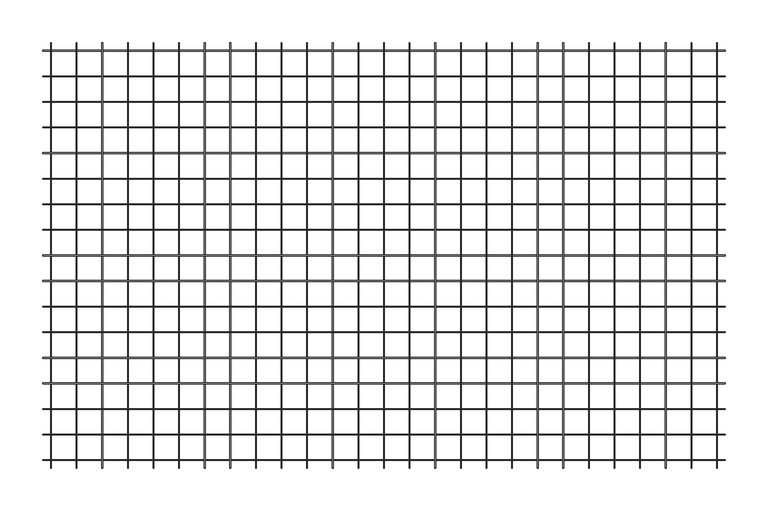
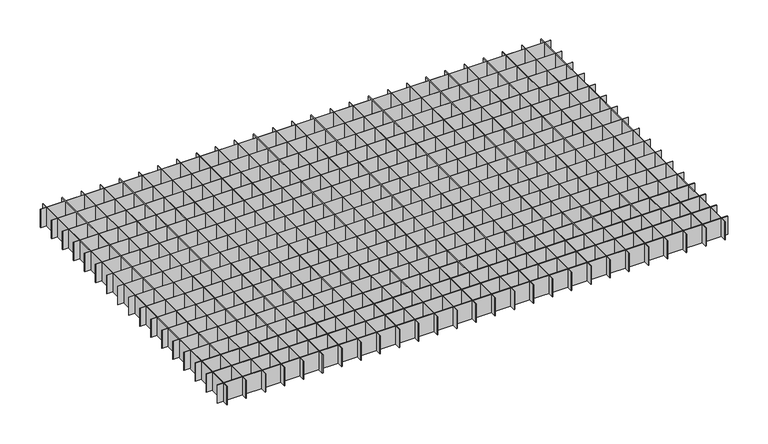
"""IFC4 building model written with IfcOpenShell, lengths in millimetres: proxy geometry, durlum_QUADRA_panel : durlum_QUADRA_corner_cut."""

import ifcopenshell
import ifcopenshell.guid

model = None  # the IFC model being written
_history = None  # IfcOwnerHistory: only IFC2X3 demands one
_inside = {}  # id of a spatial element -> (the spatial element, [elements in it])
_under = {}  # id of a project, library or spatial element -> (it, [spatial elements below it])
_declared = {}  # id of a project -> (the project, [libraries it declares])
_typed = {}  # id of a type object -> (the type object, [elements of that type])
_made_of = {}  # id of a material, layer set ... -> (it, [elements and type objects made of it])


def new_model(schema):
    """Start an empty IFC model of exactly this schema.

    Asked for "IFC4X3", IfcOpenShell would pick the latest addendum, in which some entities
    have other attributes; the version numbers below select the first issue.
    IFC2X3 requires an IfcOwnerHistory on every rooted entity: one is made here for all.
    """
    global model, _history
    if schema == "IFC4X3":
        model = ifcopenshell.file(schema_version=(4, 3, 0, 0))
    else:
        model = ifcopenshell.file(schema=schema)
    _inside.clear()
    _under.clear()
    _declared.clear()
    _typed.clear()
    _made_of.clear()
    _history = None
    if model.schema == "IFC2X3":
        org = make("IfcOrganization", Name="unknown")
        user = make(
            "IfcPersonAndOrganization",
            ThePerson=make("IfcPerson", FamilyName="unknown"),
            TheOrganization=org,
        )
        app = make(
            "IfcApplication",
            ApplicationDeveloper=org,
            Version="unknown",
            ApplicationFullName="unknown",
            ApplicationIdentifier="unknown",
        )
        _history = make(
            "IfcOwnerHistory",
            OwningUser=user,
            OwningApplication=app,
            ChangeAction="ADDED",
            CreationDate=0,
        )
    return model


def make(cls, **values):
    """One entity of the class cls with the attributes given. An attribute that is None is left unset."""
    return model.create_entity(
        cls, **{name: value for name, value in values.items() if value is not None}
    )


def rooted(cls, **values):
    """An entity with a GlobalId (a new one), such as an element, a storey or a relation."""
    return make(cls, GlobalId=ifcopenshell.guid.new(), OwnerHistory=_history, **values)


def si_unit(unit_type, name, prefix=None):
    """IfcSIUnit, for example si_unit("LENGTHUNIT", "METRE", prefix="MILLI")."""
    return make("IfcSIUnit", UnitType=unit_type, Prefix=prefix, Name=name)


def assignment(units):
    """IfcUnitAssignment: the units of a project."""
    return None if units is None else make("IfcUnitAssignment", Units=units)


def point(xyz):
    """IfcCartesianPoint."""
    return None if xyz is None else make("IfcCartesianPoint", Coordinates=xyz)


def direction(xyz):
    """IfcDirection."""
    return None if xyz is None else make("IfcDirection", DirectionRatios=xyz)


def frame(location, z_axis=None, x_axis=None):
    """IfcAxis2Placement3D, a coordinate frame: its origin and axes. An axis left out is left unset."""
    return make(
        "IfcAxis2Placement3D",
        Location=point(location),
        Axis=direction(z_axis),
        RefDirection=direction(x_axis),
    )


def origin():
    """The frame at (0, 0, 0) with its axes left unset."""
    return frame((0.0, 0.0, 0.0))


def origin_with_axes():
    """The frame at (0, 0, 0) with the z axis (0, 0, 1) and the x axis (1, 0, 0) written out."""
    return frame((0.0, 0.0, 0.0), z_axis=(0.0, 0.0, 1.0), x_axis=(1.0, 0.0, 0.0))


def place(relative_to, where):
    """IfcLocalPlacement: puts the frame where relative to a parent placement (None: the world)."""
    return make(
        "IfcLocalPlacement", PlacementRelTo=relative_to, RelativePlacement=where
    )


def context(
    kind, dimensions, precision=None, world=None, true_north=None, identifier=None
):
    """IfcGeometricRepresentationContext, for example the 3D "Model" context."""
    return make(
        "IfcGeometricRepresentationContext",
        ContextIdentifier=identifier,
        ContextType=kind,
        CoordinateSpaceDimension=dimensions,
        Precision=precision,
        WorldCoordinateSystem=world,
        TrueNorth=true_north,
    )


def project(units=None, contexts=None):
    """IfcProject with its units and contexts."""
    return rooted(
        "IfcProject",
        Name="project",
        RepresentationContexts=contexts,
        UnitsInContext=assignment(units),
    )


def spatial(cls, under=None, at=None, **own):
    """A site, building, storey or space (cls), placed at a placement, below another one or the project."""
    s = rooted(cls, ObjectPlacement=at, **own)
    if under is not None:
        _under.setdefault(under.id(), (under, []))[1].append(s)
    return s


def polyline(points):
    """IfcPolyline through the points."""
    return make("IfcPolyline", Points=[point(p) for p in points])


def outline(outer, holes=None, kind="AREA"):
    """IfcArbitraryClosedProfileDef: a profile drawn as a closed curve; with holes, ...WithVoids."""
    if holes is None:
        return make("IfcArbitraryClosedProfileDef", ProfileType=kind, OuterCurve=outer)
    return make(
        "IfcArbitraryProfileDefWithVoids",
        ProfileType=kind,
        OuterCurve=outer,
        InnerCurves=holes,
    )


def extrude(swept, where, along, depth):
    """IfcExtrudedAreaSolid: the profile swept, set in the frame where, extruded along a direction by depth."""
    return make(
        "IfcExtrudedAreaSolid",
        SweptArea=swept,
        Position=where,
        ExtrudedDirection=direction(along),
        Depth=depth,
    )


def shape(context_of_items, identifier, shape_type, items):
    """IfcShapeRepresentation: the items that make up one representation, for example the "Body"."""
    return make(
        "IfcShapeRepresentation",
        ContextOfItems=context_of_items,
        RepresentationIdentifier=identifier,
        RepresentationType=shape_type,
        Items=items,
    )


def source(mapping_origin, context_of_items, identifier, shape_type, items):
    """IfcRepresentationMap: a shape defined once, which mapped items show again and again."""
    return make(
        "IfcRepresentationMap",
        MappingOrigin=mapping_origin,
        MappedRepresentation=shape(context_of_items, identifier, shape_type, items),
    )


def transform(
    local_origin,
    x_axis=None,
    y_axis=None,
    z_axis=None,
    scale=None,
    scale2=None,
    scale3=None,
    uniform=True,
):
    """IfcCartesianTransformationOperator3D, or its non-uniform kind. x_axis, y_axis, z_axis: its Axis1, 2, 3."""
    if uniform:
        return make(
            "IfcCartesianTransformationOperator3D",
            Axis1=direction(x_axis),
            Axis2=direction(y_axis),
            LocalOrigin=point(local_origin),
            Scale=scale,
            Axis3=direction(z_axis),
        )
    return make(
        "IfcCartesianTransformationOperator3DnonUniform",
        Axis1=direction(x_axis),
        Axis2=direction(y_axis),
        LocalOrigin=point(local_origin),
        Scale=scale,
        Axis3=direction(z_axis),
        Scale2=scale2,
        Scale3=scale3,
    )


def mapped(mapping_source, mapping_target):
    """IfcMappedItem: shows the shape of a source again, moved by a transform."""
    return make(
        "IfcMappedItem", MappingSource=mapping_source, MappingTarget=mapping_target
    )


def made_of(thing, what):
    """Note that an element or type object is made of a material, layer set ...; save() writes the relation."""
    if what is not None:
        _made_of.setdefault(what.id(), (what, []))[1].append(thing)
    return thing


def element(
    cls,
    number,
    at=None,
    inside=None,
    cuts=None,
    type_object=None,
    material=None,
    context=None,
    identifier="Body",
    shape_type=None,
    held_by="IfcProductDefinitionShape",
    body=None,
    shapes=None,
    **own,
):
    """One element of the class cls, such as IfcWall. Its Tag is "e" and its number.

    at: its placement. inside: the storey or other place that contains it. cuts: it is an
    opening in that element (IfcRelVoidsElement). A single representation is given by context,
    identifier, shape_type and body (its items); several are given by shapes. held_by: the class
    of the entity that holds the representations. save() writes the other relations.
    """
    e = rooted(cls, Tag="e%d" % number, ObjectPlacement=at, **own)
    if body is not None:
        shapes = [shape(context, identifier, shape_type, body)]
    if shapes is not None:
        e.Representation = make(held_by, Representations=shapes)
    if inside is not None:
        _inside.setdefault(inside.id(), (inside, []))[1].append(e)
    if cuts is not None:
        rooted(
            "IfcRelVoidsElement", RelatingBuildingElement=cuts, RelatedOpeningElement=e
        )
    if type_object is not None:
        _typed.setdefault(type_object.id(), (type_object, []))[1].append(e)
    return made_of(e, material)


def aggregate(whole, parts):
    """IfcRelAggregates: a whole, such as a stair, and the parts it consists of."""
    return rooted("IfcRelAggregates", RelatingObject=whole, RelatedObjects=parts)


def save(model, path):
    """Write the relations noted so far, then the file.

    IfcRelAggregates (storeys below a building ...), IfcRelContainedInSpatialStructure (elements
    in a storey), IfcRelDefinesByType, IfcRelAssociatesMaterial and IfcRelDeclares: one each for
    every whole, place, type object, material and project.
    """
    for whole, parts in _under.values():
        aggregate(whole, parts)
    for where, things in _inside.values():
        rooted(
            "IfcRelContainedInSpatialStructure",
            RelatedElements=things,
            RelatingStructure=where,
        )
    for kind, things in _typed.values():
        rooted("IfcRelDefinesByType", RelatedObjects=things, RelatingType=kind)
    for what, things in _made_of.values():
        rooted("IfcRelAssociatesMaterial", RelatedObjects=things, RelatingMaterial=what)
    for by, libraries in _declared.values():
        rooted("IfcRelDeclares", RelatingContext=by, RelatedDefinitions=libraries)
    model.write(path)


def generic_models_a47dbadd(model_context):
    return source(origin(), model_context, "Body", "SweptSolid", [
        extrude(outline(polyline([(359.6, 249.5), (360.4, 249.5), (360.4, -249.5), (359.6, -249.5), (359.6, 249.5)])), origin_with_axes(), (0.0, 0.0, 1.0), 30.0),
        extrude(outline(polyline([(329.6, 249.5), (330.4, 249.5), (330.4, -249.5), (329.6, -249.5), (329.6, 249.5)])), origin_with_axes(), (0.0, 0.0, 1.0), 30.0),
        extrude(outline(polyline([(299.6, 249.5), (300.4, 249.5), (300.4, -249.5), (299.6, -249.5), (299.6, 249.5)])), origin_with_axes(), (0.0, 0.0, 1.0), 30.0),
        extrude(outline(polyline([(269.6, 249.5), (270.4, 249.5), (270.4, -249.5), (269.6, -249.5), (269.6, 249.5)])), origin_with_axes(), (0.0, 0.0, 1.0), 30.0),
        extrude(outline(polyline([(239.6, 249.5), (240.4, 249.5), (240.4, -249.5), (239.6, -249.5), (239.6, 249.5)])), origin_with_axes(), (0.0, 0.0, 1.0), 30.0),
        extrude(outline(polyline([(209.6, 249.5), (210.4, 249.5), (210.4, -249.5), (209.6, -249.5), (209.6, 249.5)])), origin_with_axes(), (0.0, 0.0, 1.0), 30.0),
        extrude(outline(polyline([(179.6, 249.5), (180.4, 249.5), (180.4, -249.5), (179.6, -249.5), (179.6, 249.5)])), origin_with_axes(), (0.0, 0.0, 1.0), 30.0),
        extrude(outline(polyline([(149.6, 249.5), (150.4, 249.5), (150.4, -249.5), (149.6, -249.5), (149.6, 249.5)])), origin_with_axes(), (0.0, 0.0, 1.0), 30.0),
        extrude(outline(polyline([(119.6, 249.5), (120.4, 249.5), (120.4, -249.5), (119.6, -249.5), (119.6, 249.5)])), origin_with_axes(), (0.0, 0.0, 1.0), 30.0),
        extrude(outline(polyline([(89.6, 249.5), (90.4, 249.5), (90.4, -249.5), (89.6, -249.5), (89.6, 249.5)])), origin_with_axes(), (0.0, 0.0, 1.0), 30.0),
        extrude(outline(polyline([(59.6, 249.5), (60.4, 249.5), (60.4, -249.5), (59.6, -249.5), (59.6, 249.5)])), origin_with_axes(), (0.0, 0.0, 1.0), 30.0),
        extrude(outline(polyline([(29.6, 249.5), (30.4, 249.5), (30.4, -249.5), (29.6, -249.5), (29.6, 249.5)])), origin_with_axes(), (0.0, 0.0, 1.0), 30.0),
        extrude(outline(polyline([(399.75, -209.6), (399.75, -210.4), (-399.75, -210.4), (-399.75, -209.6), (399.75, -209.6)])), origin_with_axes(), (0.0, 0.0, 1.0), 30.0),
        extrude(outline(polyline([(399.75, -179.6), (399.75, -180.4), (-399.75, -180.4), (-399.75, -179.6), (399.75, -179.6)])), origin_with_axes(), (0.0, 0.0, 1.0), 30.0),
        extrude(outline(polyline([(399.75, -149.6), (399.75, -150.4), (-399.75, -150.4), (-399.75, -149.6), (399.75, -149.6)])), origin_with_axes(), (0.0, 0.0, 1.0), 30.0),
        extrude(outline(polyline([(399.75, -119.6), (399.75, -120.4), (-399.75, -120.4), (-399.75, -119.6), (399.75, -119.6)])), origin_with_axes(), (0.0, 0.0, 1.0), 30.0),
        extrude(outline(polyline([(399.75, -89.6), (399.75, -90.4), (-399.75, -90.4), (-399.75, -89.6), (399.75, -89.6)])), origin_with_axes(), (0.0, 0.0, 1.0), 30.0),
        extrude(outline(polyline([(399.75, -59.6), (399.75, -60.4), (-399.75, -60.4), (-399.75, -59.6), (399.75, -59.6)])), origin_with_axes(), (0.0, 0.0, 1.0), 30.0),
        extrude(outline(polyline([(399.75, -29.6), (399.75, -30.4), (-399.75, -30.4), (-399.75, -29.6), (399.75, -29.6)])), origin_with_axes(), (0.0, 0.0, 1.0), 30.0),
        extrude(outline(polyline([(399.75, 0.4), (399.75, -0.4), (-399.75, -0.4), (-399.75, 0.4), (399.75, 0.4)])), origin_with_axes(), (0.0, 0.0, 1.0), 30.0),
        extrude(outline(polyline([(399.75, 30.4), (399.75, 29.6), (-399.75, 29.6), (-399.75, 30.4), (399.75, 30.4)])), origin_with_axes(), (0.0, 0.0, 1.0), 30.0),
        extrude(outline(polyline([(-0.4, 249.5), (0.4, 249.5), (0.4, -249.5), (-0.4, -249.5), (-0.4, 249.5)])), origin_with_axes(), (0.0, 0.0, 1.0), 30.0),
        extrude(outline(polyline([(-30.4, 249.5), (-29.6, 249.5), (-29.6, -249.5), (-30.4, -249.5), (-30.4, 249.5)])), origin_with_axes(), (0.0, 0.0, 1.0), 30.0),
        extrude(outline(polyline([(-60.4, 249.5), (-59.6, 249.5), (-59.6, -249.5), (-60.4, -249.5), (-60.4, 249.5)])), origin_with_axes(), (0.0, 0.0, 1.0), 30.0),
        extrude(outline(polyline([(-90.4, 249.5), (-89.6, 249.5), (-89.6, -249.5), (-90.4, -249.5), (-90.4, 249.5)])), origin_with_axes(), (0.0, 0.0, 1.0), 30.0),
        extrude(outline(polyline([(-120.4, 249.5), (-119.6, 249.5), (-119.6, -249.5), (-120.4, -249.5), (-120.4, 249.5)])), origin_with_axes(), (0.0, 0.0, 1.0), 30.0),
        extrude(outline(polyline([(-150.4, 249.5), (-149.6, 249.5), (-149.6, -249.5), (-150.4, -249.5), (-150.4, 249.5)])), origin_with_axes(), (0.0, 0.0, 1.0), 30.0),
        extrude(outline(polyline([(-180.4, 249.5), (-179.6, 249.5), (-179.6, -249.5), (-180.4, -249.5), (-180.4, 249.5)])), origin_with_axes(), (0.0, 0.0, 1.0), 30.0),
        extrude(outline(polyline([(-210.4, 249.5), (-209.6, 249.5), (-209.6, -249.5), (-210.4, -249.5), (-210.4, 249.5)])), origin_with_axes(), (0.0, 0.0, 1.0), 30.0),
        extrude(outline(polyline([(-240.4, 249.5), (-239.6, 249.5), (-239.6, -249.5), (-240.4, -249.5), (-240.4, 249.5)])), origin_with_axes(), (0.0, 0.0, 1.0), 30.0),
        extrude(outline(polyline([(-270.4, 249.5), (-269.6, 249.5), (-269.6, -249.5), (-270.4, -249.5), (-270.4, 249.5)])), origin_with_axes(), (0.0, 0.0, 1.0), 30.0),
        extrude(outline(polyline([(-300.4, 249.5), (-299.6, 249.5), (-299.6, -249.5), (-300.4, -249.5), (-300.4, 249.5)])), origin_with_axes(), (0.0, 0.0, 1.0), 30.0),
        extrude(outline(polyline([(-330.4, 249.5), (-329.6, 249.5), (-329.6, -249.5), (-330.4, -249.5), (-330.4, 249.5)])), origin_with_axes(), (0.0, 0.0, 1.0), 30.0),
        extrude(outline(polyline([(-360.4, 249.5), (-359.6, 249.5), (-359.6, -249.5), (-360.4, -249.5), (-360.4, 249.5)])), origin_with_axes(), (0.0, 0.0, 1.0), 30.0),
        extrude(outline(polyline([(399.75, 60.4), (399.75, 59.6), (-399.75, 59.6), (-399.75, 60.4), (399.75, 60.4)])), origin_with_axes(), (0.0, 0.0, 1.0), 30.0),
        extrude(outline(polyline([(399.75, 90.4), (399.75, 89.6), (-399.75, 89.6), (-399.75, 90.4), (399.75, 90.4)])), origin_with_axes(), (0.0, 0.0, 1.0), 30.0),
        extrude(outline(polyline([(399.75, 120.4), (399.75, 119.6), (-399.75, 119.6), (-399.75, 120.4), (399.75, 120.4)])), origin_with_axes(), (0.0, 0.0, 1.0), 30.0),
        extrude(outline(polyline([(399.75, 150.4), (399.75, 149.6), (-399.75, 149.6), (-399.75, 150.4), (399.75, 150.4)])), origin_with_axes(), (0.0, 0.0, 1.0), 30.0),
        extrude(outline(polyline([(399.75, 180.4), (399.75, 179.6), (-399.75, 179.6), (-399.75, 180.4), (399.75, 180.4)])), origin_with_axes(), (0.0, 0.0, 1.0), 30.0),
        extrude(outline(polyline([(399.75, 210.4), (399.75, 209.6), (-399.75, 209.6), (-399.75, 210.4), (399.75, 210.4)])), origin_with_axes(), (0.0, 0.0, 1.0), 30.0),
        extrude(outline(polyline([(389.6, 249.5), (390.4, 249.5), (390.4, -249.5), (389.6, -249.5), (389.6, 249.5)])), origin_with_axes(), (0.0, 0.0, 1.0), 30.0),
        extrude(outline(polyline([(-390.4, 249.5), (-389.6, 249.5), (-389.6, -249.5), (-390.4, -249.5), (-390.4, 249.5)])), origin_with_axes(), (0.0, 0.0, 1.0), 30.0),
        extrude(outline(polyline([(399.75, -239.6), (399.75, -240.4), (-399.75, -240.4), (-399.75, -239.6), (399.75, -239.6)])), origin_with_axes(), (0.0, 0.0, 1.0), 30.0),
        extrude(outline(polyline([(399.75, 240.4), (399.75, 239.6), (-399.75, 239.6), (-399.75, 240.4), (399.75, 240.4)])), origin_with_axes(), (0.0, 0.0, 1.0), 30.0),
    ])


if __name__ == "__main__":
    model = new_model("IFC4")
    model_context = context("Model", 3, world=origin())
    ifc_project = project(units=[si_unit("LENGTHUNIT", "METRE", prefix="MILLI")], contexts=[model_context])
    site = spatial("IfcSite", under=ifc_project)
    building = spatial("IfcBuilding", under=site)
    placement = place(None, origin())
    generic_models_shape = generic_models_a47dbadd(model_context)
    element("IfcBuildingElementProxy", 1, Name="durlum_QUADRA_panel : durlum_QUADRA_corner_cut", ObjectType="durlum_QUADRA_panel : durlum_QUADRA_corner_cut", at=placement, inside=building, context=model_context, shape_type="MappedRepresentation", body=[
        mapped(generic_models_shape, transform((0.0, 0.0, 0.0), x_axis=(1.0, 0.0, 0.0), y_axis=(0.0, 1.0, 0.0), z_axis=(0.0, 0.0, 1.0))),
    ])
    save(model, "model.ifc")
